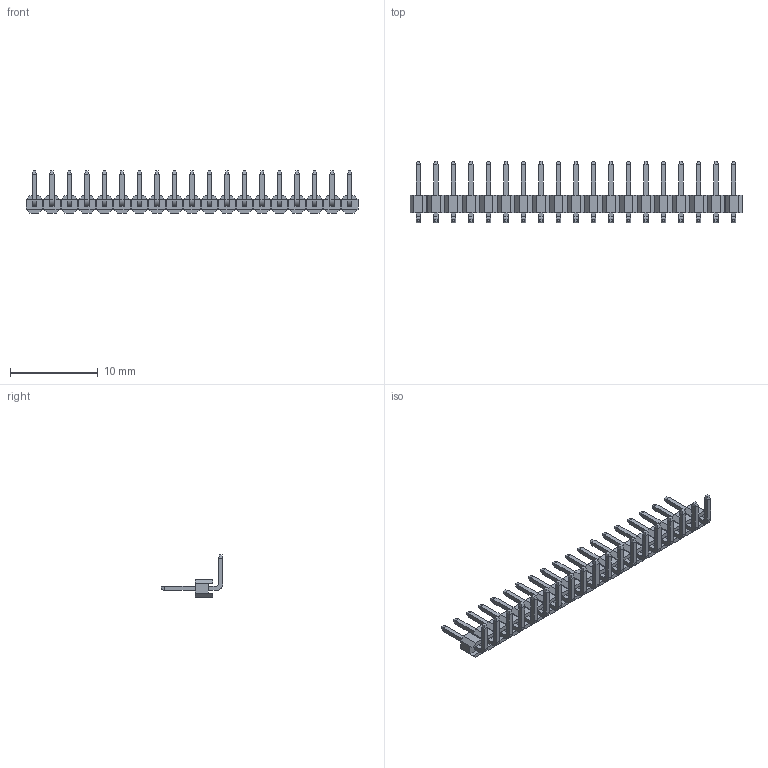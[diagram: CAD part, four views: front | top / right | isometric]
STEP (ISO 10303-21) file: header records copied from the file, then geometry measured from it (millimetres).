
FILE_DESCRIPTION(/* description */ (''),/* implementation_level */ '2;1');
FILE_NAME(/* name */ 'E:\工作文件\排针排母\PZ排针\2.00\单排\弯针-W\PZ200-1-19-W-2.0(2.00 双排 弯针 排针-HCTL).stp',/* time_stamp */ '2023-12-25T14:03:07+08:00',/* author */ ('admin'),/* organization */ (''),/* preprocessor_version */ 'ST-DEVELOPER v18.1',/* originating_system */ 'Autodesk Inventor 2021',/* authorisation */ '');
FILE_SCHEMA (('AUTOMOTIVE_DESIGN { 1 0 10303 214 3 1 1 }'));
Length unit declared in the file: millimetre
Products named in the file (1): PZ200-1-1-W-2.0(2.00 双排 弯针 
排针-HCTL)
Bounding box: 37.9 x 7.05 x 4.8 mm (x, y, z)
Volume: 153 mm3; surface area: 795.5 mm2
Topology: 37 solids, 37 shells, 792 faces, 1812 edges, 1132 vertices
Faces by surface type: plane 754, cylinder 38
Entity records: 21593 total; most frequent: CARTESIAN_POINT 3737, ORIENTED_EDGE 3624, DIRECTION 3474, EDGE_CURVE 1812, LINE 1736, VECTOR 1736, VERTEX_POINT 1132, AXIS2_PLACEMENT_3D 869
